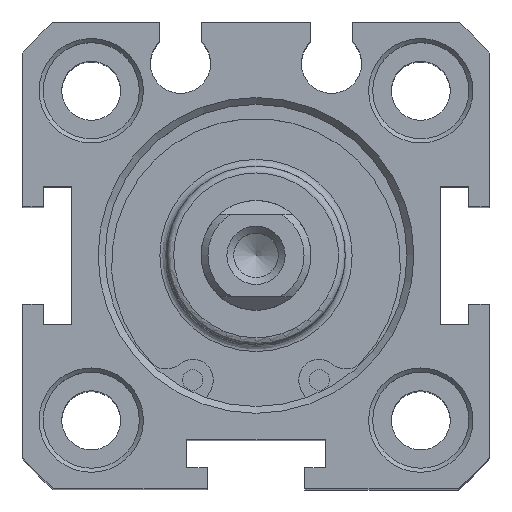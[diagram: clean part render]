
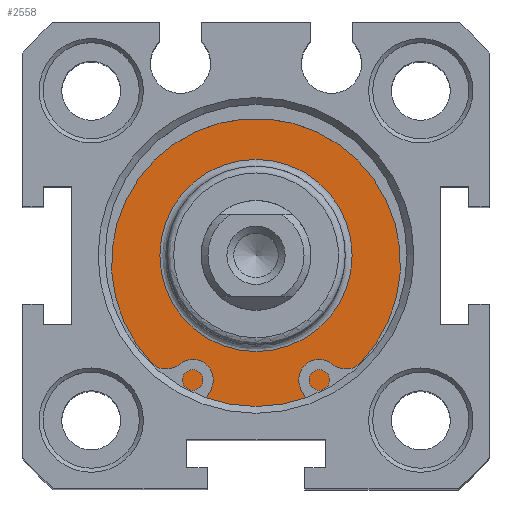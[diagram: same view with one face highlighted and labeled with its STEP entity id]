
A CAD part, top view. The second image highlights one B-rep face of the part: STEP entity #2558.
In plain terms, the highlighted planar face has unit normal (0, 0, 1).
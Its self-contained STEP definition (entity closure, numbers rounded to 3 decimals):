
#2507=CARTESIAN_POINT('',(0.24,8.683,46.8));
#2508=VERTEX_POINT('',#2507);
#2509=CARTESIAN_POINT('',(0.24,1.683,46.8));
#2510=DIRECTION('',(0.0,0.0,1.0));
#2511=DIRECTION('',(0.0,-1.0,0.0));
#2512=AXIS2_PLACEMENT_3D('',#2509,#2510,#2511);
#2513=CIRCLE('',#2512,7.);
#2514=EDGE_CURVE('',#2508,#2508,#2513,.T.);
#2539=CARTESIAN_POINT('',(0.24,10.433,46.8));
#2540=DIRECTION('',(0.0,0.0,1.0));
#2541=DIRECTION('',(1.0,0.0,0.0));
#2542=AXIS2_PLACEMENT_3D('',#2539,#2540,#2541);
#2543=PLANE('',#2542);
#2544=CARTESIAN_POINT('',(0.24,12.683,46.8));
#2545=VERTEX_POINT('',#2544);
#2546=CARTESIAN_POINT('',(0.24,1.683,46.8));
#2547=DIRECTION('',(0.0,0.0,-1.0));
#2548=DIRECTION('',(0.0,1.0,0.0));
#2549=AXIS2_PLACEMENT_3D('',#2546,#2547,#2548);
#2550=CIRCLE('',#2549,11.0);
#2551=EDGE_CURVE('',#2545,#2545,#2550,.T.);
#2552=ORIENTED_EDGE('',*,*,#2551,.F.);
#2553=EDGE_LOOP('',(#2552));
#2554=FACE_OUTER_BOUND('',#2553,.T.);
#2555=ORIENTED_EDGE('',*,*,#2514,.F.);
#2556=EDGE_LOOP('',(#2555));
#2557=FACE_BOUND('',#2556,.T.);
#2558=ADVANCED_FACE('',(#2554,#2557),#2543,.T.);
